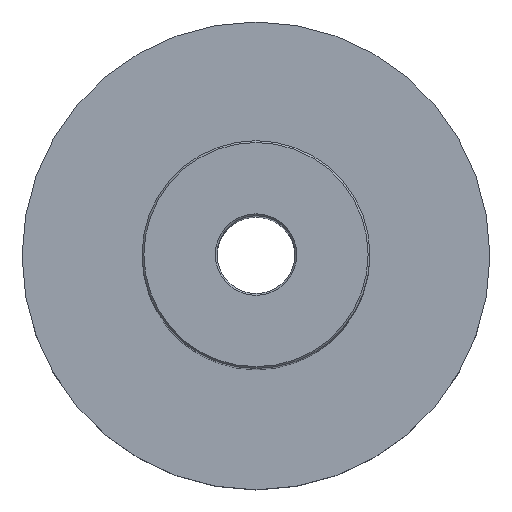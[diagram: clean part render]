
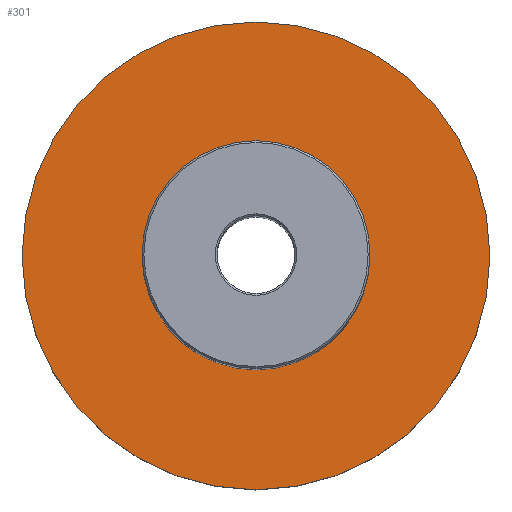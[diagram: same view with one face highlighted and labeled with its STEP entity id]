
A CAD part, top view. The second image highlights one B-rep face of the part: STEP entity #301.
In plain terms, the highlighted planar face has unit normal (0, 0, 1).
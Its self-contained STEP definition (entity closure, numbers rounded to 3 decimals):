
#127 = CYLINDRICAL_SURFACE('',#128,77.);
#128 = AXIS2_PLACEMENT_3D('',#129,#130,#131);
#129 = CARTESIAN_POINT('',(0.,0.,0.));
#130 = DIRECTION('',(0.,0.,1.));
#131 = DIRECTION('',(1.,0.,-0.));
#196 = VERTEX_POINT('',#197);
#197 = CARTESIAN_POINT('',(77.,0.,33.9));
#220 = EDGE_CURVE('',#196,#196,#221,.T.);
#221 = SURFACE_CURVE('',#222,(#227,#234),.PCURVE_S1.);
#222 = CIRCLE('',#223,77.);
#223 = AXIS2_PLACEMENT_3D('',#224,#225,#226);
#224 = CARTESIAN_POINT('',(0.,0.,33.9));
#225 = DIRECTION('',(0.,0.,1.));
#226 = DIRECTION('',(1.,0.,-0.));
#227 = PCURVE('',#127,#228);
#228 = DEFINITIONAL_REPRESENTATION('',(#229),#233);
#229 = LINE('',#230,#231);
#230 = CARTESIAN_POINT('',(0.,33.9));
#231 = VECTOR('',#232,1.);
#232 = DIRECTION('',(1.,0.));
#233 = ( GEOMETRIC_REPRESENTATION_CONTEXT(2) 
PARAMETRIC_REPRESENTATION_CONTEXT() REPRESENTATION_CONTEXT('2D SPACE',''
  ) );
#234 = PCURVE('',#235,#240);
#235 = PLANE('',#236);
#236 = AXIS2_PLACEMENT_3D('',#237,#238,#239);
#237 = CARTESIAN_POINT('',(0.,0.,33.9));
#238 = DIRECTION('',(0.,0.,1.));
#239 = DIRECTION('',(1.,0.,-0.));
#240 = DEFINITIONAL_REPRESENTATION('',(#241),#245);
#241 = CIRCLE('',#242,77.);
#242 = AXIS2_PLACEMENT_2D('',#243,#244);
#243 = CARTESIAN_POINT('',(0.,0.));
#244 = DIRECTION('',(1.,0.));
#245 = ( GEOMETRIC_REPRESENTATION_CONTEXT(2) 
PARAMETRIC_REPRESENTATION_CONTEXT() REPRESENTATION_CONTEXT('2D SPACE',''
  ) );
#301 = ADVANCED_FACE('',(#302,#305),#235,.T.);
#302 = FACE_BOUND('',#303,.T.);
#303 = EDGE_LOOP('',(#304));
#304 = ORIENTED_EDGE('',*,*,#220,.T.);
#305 = FACE_BOUND('',#306,.T.);
#306 = EDGE_LOOP('',(#307));
#307 = ORIENTED_EDGE('',*,*,#308,.F.);
#308 = EDGE_CURVE('',#309,#309,#311,.T.);
#309 = VERTEX_POINT('',#310);
#310 = CARTESIAN_POINT('',(37.5,0.,33.9));
#311 = SURFACE_CURVE('',#312,(#317,#324),.PCURVE_S1.);
#312 = CIRCLE('',#313,37.5);
#313 = AXIS2_PLACEMENT_3D('',#314,#315,#316);
#314 = CARTESIAN_POINT('',(0.,0.,33.9));
#315 = DIRECTION('',(0.,0.,1.));
#316 = DIRECTION('',(1.,0.,-0.));
#317 = PCURVE('',#235,#318);
#318 = DEFINITIONAL_REPRESENTATION('',(#319),#323);
#319 = CIRCLE('',#320,37.5);
#320 = AXIS2_PLACEMENT_2D('',#321,#322);
#321 = CARTESIAN_POINT('',(0.,0.));
#322 = DIRECTION('',(1.,0.));
#323 = ( GEOMETRIC_REPRESENTATION_CONTEXT(2) 
PARAMETRIC_REPRESENTATION_CONTEXT() REPRESENTATION_CONTEXT('2D SPACE',''
  ) );
#324 = PCURVE('',#325,#330);
#325 = CYLINDRICAL_SURFACE('',#326,37.5);
#326 = AXIS2_PLACEMENT_3D('',#327,#328,#329);
#327 = CARTESIAN_POINT('',(0.,0.,33.9));
#328 = DIRECTION('',(0.,0.,1.));
#329 = DIRECTION('',(1.,0.,-0.));
#330 = DEFINITIONAL_REPRESENTATION('',(#331),#335);
#331 = LINE('',#332,#333);
#332 = CARTESIAN_POINT('',(0.,0.));
#333 = VECTOR('',#334,1.);
#334 = DIRECTION('',(1.,0.));
#335 = ( GEOMETRIC_REPRESENTATION_CONTEXT(2) 
PARAMETRIC_REPRESENTATION_CONTEXT() REPRESENTATION_CONTEXT('2D SPACE',''
  ) );
